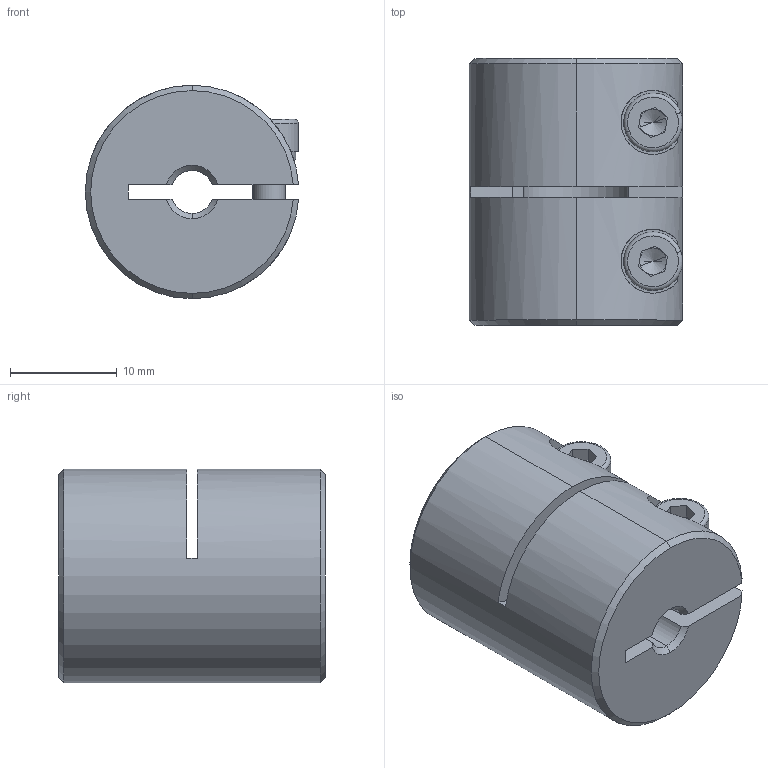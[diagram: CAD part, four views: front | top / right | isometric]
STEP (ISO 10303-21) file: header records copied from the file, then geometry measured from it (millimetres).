
FILE_DESCRIPTION (( 'STEP AP203' ), '1' );
FILE_NAME ('LL-B-D20L25-4-4.STEP', '2021-11-05T03:22:08', ( '' ), ( '' ), 'SwSTEP 2.0', 'SolidWorks 2018', '' );
FILE_SCHEMA (( 'CONFIG_CONTROL_DESIGN' ));
Length unit declared in the file: millimetre
Products named in the file (1): LL-B-D20L25-4-4
Bounding box: 19.98 x 25 x 20 mm (x, y, z)
Volume: 6143.8 mm3; surface area: 3630.6 mm2
Topology: 1 solids, 1 shells, 116 faces, 300 edges, 188 vertices
Faces by surface type: plane 53, cylinder 43, cone 16, torus 4
Entity records: 3789 total; most frequent: CARTESIAN_POINT 835, DIRECTION 630, ORIENTED_EDGE 592, EDGE_CURVE 296, AXIS2_PLACEMENT_3D 243, VERTEX_POINT 188, LINE 144, VECTOR 144
